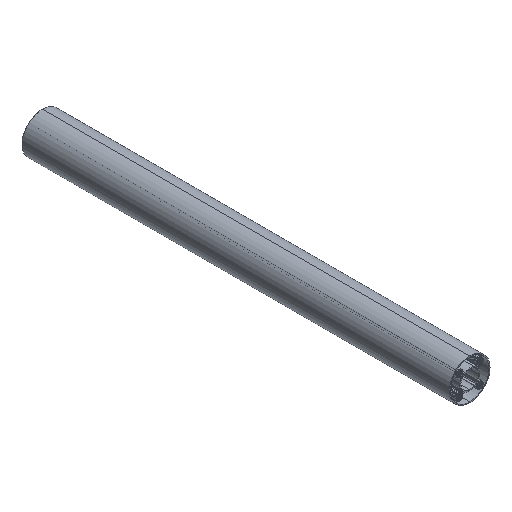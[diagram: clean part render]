
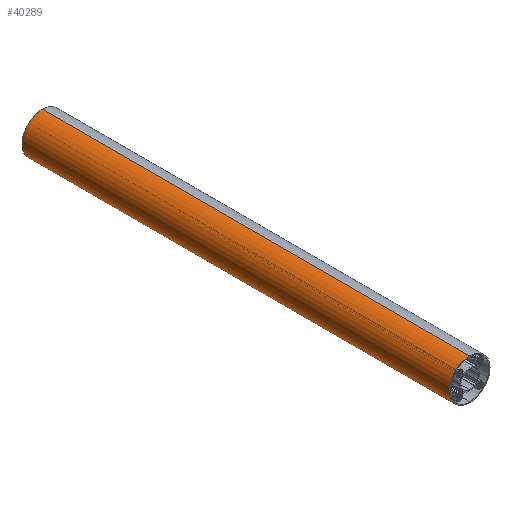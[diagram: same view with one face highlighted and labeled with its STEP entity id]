
A CAD part, isometric view. The second image highlights one B-rep face of the part: STEP entity #40289.
In plain terms, the highlighted cylindrical face has radius 15.975 mm (diameter 31.95 mm), a partial arc.
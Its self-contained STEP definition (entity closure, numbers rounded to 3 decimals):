
#1875 = VERTEX_POINT ( 'NONE', #6997 ) ;
#2263 = ORIENTED_EDGE ( 'NONE', *, *, #22015, .T. ) ;
#5440 = VERTEX_POINT ( 'NONE', #46360 ) ;
#6429 = DIRECTION ( 'NONE',  ( 0., 1., 0. ) ) ;
#6997 = CARTESIAN_POINT ( 'NONE',  ( 0., 0., -15.975 ) ) ;
#10732 = CARTESIAN_POINT ( 'NONE',  ( 0., 336., 0. ) ) ;
#14564 = FACE_OUTER_BOUND ( 'NONE', #23731, .T. ) ;
#15795 = VERTEX_POINT ( 'NONE', #32816 ) ;
#17570 = CARTESIAN_POINT ( 'NONE',  ( 0., 336., 15.975 ) ) ;
#19462 = VECTOR ( 'NONE', #19797, 1000. ) ;
#19797 = DIRECTION ( 'NONE',  ( 0., -1., 0. ) ) ;
#20239 = DIRECTION ( 'NONE',  ( 0., 0., 1. ) ) ;
#21667 = CIRCLE ( 'NONE', #41379, 15.975 ) ;
#22013 = CIRCLE ( 'NONE', #49919, 15.975 ) ;
#22015 = EDGE_CURVE ( 'NONE', #15795, #1875, #33031, .T. ) ;
#22293 = VERTEX_POINT ( 'NONE', #41190 ) ;
#23731 = EDGE_LOOP ( 'NONE', ( #49190, #30614, #2263, #48928 ) ) ;
#26065 = DIRECTION ( 'NONE',  ( 0., -1., 0. ) ) ;
#27754 = EDGE_CURVE ( 'NONE', #1875, #5440, #21667, .T. ) ;
#28640 = AXIS2_PLACEMENT_3D ( 'NONE', #45826, #26065, #45319 ) ;
#29322 = CYLINDRICAL_SURFACE ( 'NONE', #28640, 15.975 ) ;
#30614 = ORIENTED_EDGE ( 'NONE', *, *, #43240, .F. ) ;
#32816 = CARTESIAN_POINT ( 'NONE',  ( 0., 336., -15.975 ) ) ;
#33031 = LINE ( 'NONE', #43820, #19462 ) ;
#35603 = EDGE_CURVE ( 'NONE', #22293, #5440, #35746, .T. ) ;
#35746 = LINE ( 'NONE', #17570, #45719 ) ;
#40243 = CARTESIAN_POINT ( 'NONE',  ( 0., 0., 0. ) ) ;
#40289 = ADVANCED_FACE ( 'NONE', ( #14564 ), #29322, .T. ) ;
#41190 = CARTESIAN_POINT ( 'NONE',  ( 0., 336., 15.975 ) ) ;
#41379 = AXIS2_PLACEMENT_3D ( 'NONE', #40243, #43905, #20239 ) ;
#43240 = EDGE_CURVE ( 'NONE', #15795, #22293, #22013, .T. ) ;
#43820 = CARTESIAN_POINT ( 'NONE',  ( 0., 336., -15.975 ) ) ;
#43905 = DIRECTION ( 'NONE',  ( 0., 1., 0. ) ) ;
#44881 = DIRECTION ( 'NONE',  ( 0., -1., 0. ) ) ;
#45319 = DIRECTION ( 'NONE',  ( 0., 0., -1. ) ) ;
#45719 = VECTOR ( 'NONE', #44881, 1000. ) ;
#45826 = CARTESIAN_POINT ( 'NONE',  ( 0., 336., 0. ) ) ;
#46198 = DIRECTION ( 'NONE',  ( 0., 0., 1. ) ) ;
#46360 = CARTESIAN_POINT ( 'NONE',  ( 0., 0., 15.975 ) ) ;
#48928 = ORIENTED_EDGE ( 'NONE', *, *, #27754, .T. ) ;
#49190 = ORIENTED_EDGE ( 'NONE', *, *, #35603, .F. ) ;
#49919 = AXIS2_PLACEMENT_3D ( 'NONE', #10732, #6429, #46198 ) ;
